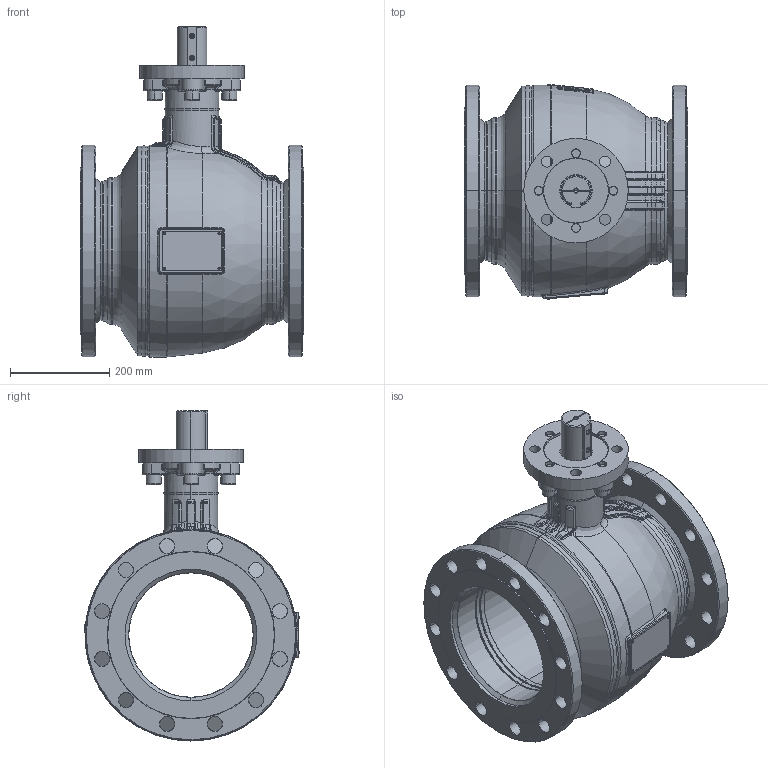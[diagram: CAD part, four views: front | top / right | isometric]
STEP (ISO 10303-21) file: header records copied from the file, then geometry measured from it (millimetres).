
FILE_DESCRIPTION((''),'2;1');
FILE_NAME('KHMO-F-V-250P025-VII-_SW0001','2026-09-30T11:42:43',('jeitlers'),('KLINGER'),'CREO PARAMETRIC BY PTC INC, 2025443','CREO PARAMETRIC BY PTC INC, 2025443','');
FILE_SCHEMA(('CONFIG_CONTROL_DESIGN'));
Products named in the file (1): KHMO-F-V-250P025-VII-_SW0001
Bounding box: 450 x 432.21 x 663.5 mm (x, y, z)
Volume: 16420149.6 mm3; surface area: 3012715.3 mm2
Topology: 6 solids, 6 shells, 1619 faces, 3987 edges, 2424 vertices
Faces by surface type: plane 616, cylinder 308, cone 238, bspline 232, torus 191, sphere 34
Entity records: 80302 total; most frequent: CARTESIAN_POINT 44223, ORIENTED_EDGE 7938, DIRECTION 7063, EDGE_CURVE 3969, AXIS2_PLACEMENT_3D 2937, VERTEX_POINT 2424, EDGE_LOOP 1763, FACE_OUTER_BOUND 1619
